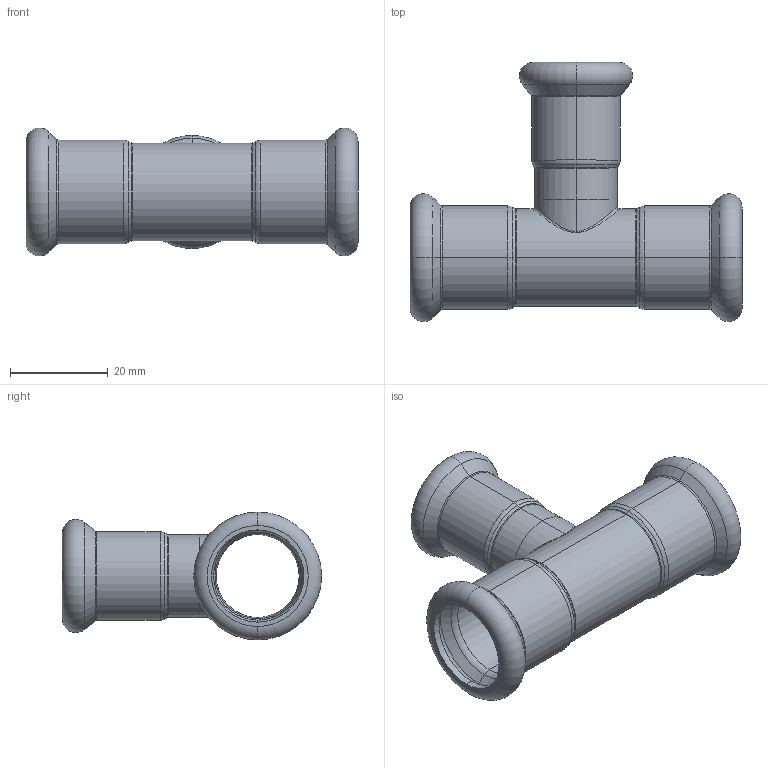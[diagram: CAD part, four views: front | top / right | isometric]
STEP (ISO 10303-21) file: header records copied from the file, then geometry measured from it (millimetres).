
FILE_DESCRIPTION (( 'STEP AP203' ), '1' );
FILE_NAME ('GDA5191.STEP', '2019-01-12T05:42:08', ( '' ), ( '' ), 'SwSTEP 2.0', 'SolidWorks 2015', '' );
FILE_SCHEMA (( 'CONFIG_CONTROL_DESIGN' ));
Length unit declared in the file: millimetre
Products named in the file (3): T-ｉ-01-15; T(R)-¢ñ-18¡Á15''; GDA5191
Assembly tree (2 placements, depth 2):
  GDA5191
    T(R)-¢ñ-18¡Á15''
    T-ｉ-01-15
Bounding box: 68 x 53.1 x 26.19 mm (x, y, z)
Volume: 9279 mm3; surface area: 12780.5 mm2
Topology: 2 solids, 2 shells, 114 faces, 234 edges, 128 vertices
Faces by surface type: torus 48, cylinder 30, cone 24, plane 8, bspline 4
Entity records: 4285 total; most frequent: CARTESIAN_POINT 1495, DIRECTION 620, ORIENTED_EDGE 468, AXIS2_PLACEMENT_3D 283, EDGE_CURVE 234, CIRCLE 168, VERTEX_POINT 128, EDGE_LOOP 124
